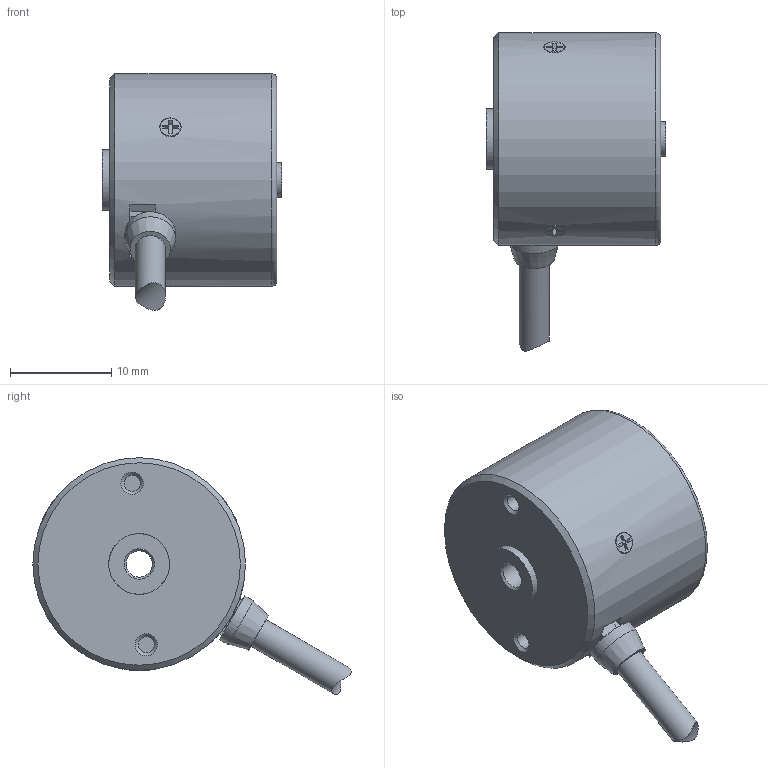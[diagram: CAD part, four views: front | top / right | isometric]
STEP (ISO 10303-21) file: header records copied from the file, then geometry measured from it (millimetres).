
FILE_DESCRIPTION(('STEP AP242'),'1');
FILE_NAME('P.stp','2025-08-19T06:49:29',(' '),(' '),'Spatial InterOp 3D',' ',' ');
FILE_SCHEMA(('AP242_MANAGED_MODEL_BASED_3D_ENGINEERING_MIM_LF {1 0 10303 442 1 1 4}'));
Length unit declared in the file: millimetre
Products named in the file (1): L15F01B MEH-14-＊＊＊PST#E
Bounding box: 17.75 x 31.43 x 23.37 mm (x, y, z)
Volume: 5699.3 mm3; surface area: 2184.2 mm2
Topology: 1 solids, 5 shells, 114 faces, 278 edges, 183 vertices
Faces by surface type: plane 68, cylinder 33, cone 12, torus 1
Full cylindrical faces by diameter (mm): 1.4 x3, 1.5 x3, 1.6 x4, 2 x3, 2.1 x3, 2.6 x1, 3 x1, 3.4 x1, 3.5 x1, 5 x1, 6 x1, 21 x1
Entity records: 4265 total; most frequent: CARTESIAN_POINT 801, DIRECTION 511, ORIENTED_EDGE 442, EDGE_CURVE 221, AXIS2_PLACEMENT_3D 189, EDGE_LOOP 168, VERTEX_POINT 163, FACE_OUTER_BOUND 138
